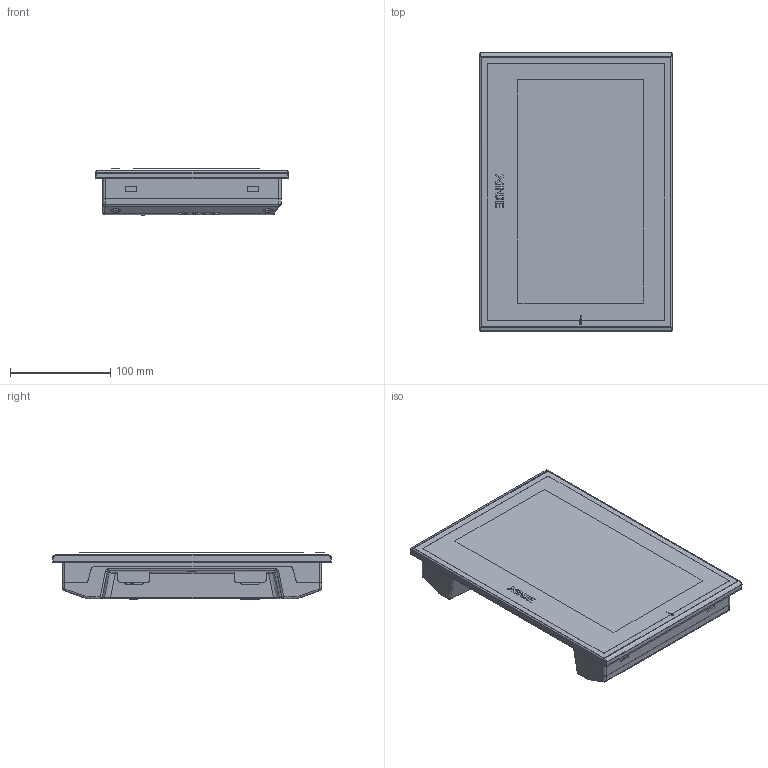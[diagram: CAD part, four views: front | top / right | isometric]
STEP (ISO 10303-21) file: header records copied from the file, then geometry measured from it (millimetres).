
FILE_DESCRIPTION(/* description */ (''),/* implementation_level */ '2;1');
FILE_NAME(/* name */ 'TGA63S~1',/* time_stamp */ '2023-04-10T16:20:56+08:00',/* author */ (''),/* organization */ (''),/* preprocessor_version */ 'ST-DEVELOPER v16.5',/* originating_system */ '',/* authorisation */ '');
FILE_SCHEMA (('AUTOMOTIVE_DESIGN'));
Products named in the file (1): Document
Bounding box: 191.69 x 277 x 45.83 mm (x, y, z)
Volume: 42058.5 mm3; surface area: 373258.6 mm2
Topology: 2 solids, 1689 shells, 2871 faces, 11865 edges, 10795 vertices
Faces by surface type: plane 2447, bspline 424
Entity records: 124863 total; most frequent: CARTESIAN_POINT 54351, ORIENTED_EDGE 15039, EDGE_CURVE 11861, B_SPLINE_CURVE_WITH_KNOTS 10882, VERTEX_POINT 10795, EDGE_LOOP 3210, ADVANCED_FACE 2871, FACE_OUTER_BOUND 2871
